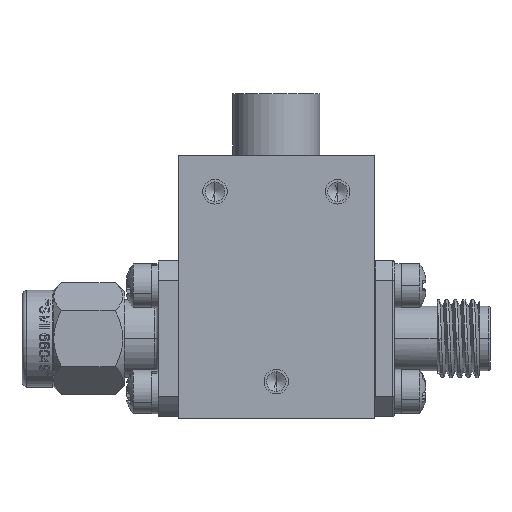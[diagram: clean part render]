
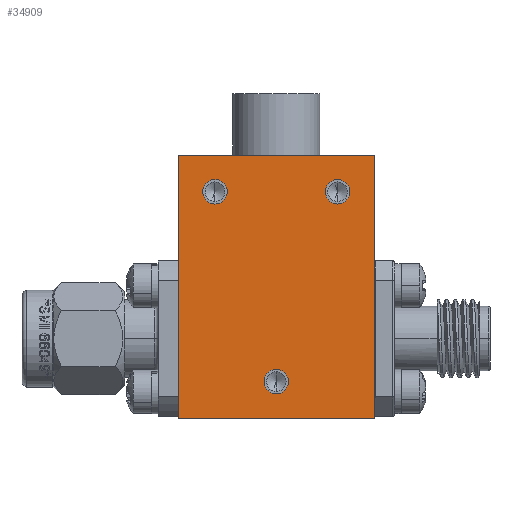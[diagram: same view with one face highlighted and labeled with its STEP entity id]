
A CAD part, front view. The second image highlights one B-rep face of the part: STEP entity #34909.
In plain terms, the highlighted planar face has unit normal (0, -1, 0).
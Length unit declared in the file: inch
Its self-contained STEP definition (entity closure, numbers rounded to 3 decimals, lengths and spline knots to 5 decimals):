
#187 = CARTESIAN_POINT ( 'NONE',  ( -0.35237, -0.21877, -0.73961 ) ) ;
#469 = CARTESIAN_POINT ( 'NONE',  ( -0.03737, -0.21877, -0.81824 ) ) ;
#702 = CARTESIAN_POINT ( 'NONE',  ( -0.15537, -0.21877, -0.09024 ) ) ;
#1106 = CARTESIAN_POINT ( 'NONE',  ( -0.66737, -0.21877, -0.81824 ) ) ;
#1234 = CIRCLE ( 'NONE', #20628, 0.03937 ) ;
#1672 = FACE_BOUND ( 'NONE', #22469, .T. ) ;
#1758 = DIRECTION ( 'NONE',  ( 0., 0., -1. ) ) ;
#2652 = DIRECTION ( 'NONE',  ( 0., 0., -1. ) ) ;
#4607 = ORIENTED_EDGE ( 'NONE', *, *, #25985, .F. ) ;
#4716 = VERTEX_POINT ( 'NONE', #19834 ) ;
#4989 = CARTESIAN_POINT ( 'NONE',  ( -0.54937, -0.21877, -0.09024 ) ) ;
#5359 = AXIS2_PLACEMENT_3D ( 'NONE', #4989, #35419, #1758 ) ;
#5694 = DIRECTION ( 'NONE',  ( 0., -1., 0. ) ) ;
#6892 = EDGE_CURVE ( 'NONE', #29649, #32487, #12876, .T. ) ;
#7384 = ORIENTED_EDGE ( 'NONE', *, *, #10046, .F. ) ;
#7609 = AXIS2_PLACEMENT_3D ( 'NONE', #702, #10830, #14444 ) ;
#7968 = ORIENTED_EDGE ( 'NONE', *, *, #31310, .F. ) ;
#8193 = VECTOR ( 'NONE', #9255, 39.37008 ) ;
#8658 = VERTEX_POINT ( 'NONE', #27869 ) ;
#8943 = LINE ( 'NONE', #21490, #24591 ) ;
#9245 = CIRCLE ( 'NONE', #21567, 0.03937 ) ;
#9255 = DIRECTION ( 'NONE',  ( 0., 0., -1. ) ) ;
#9614 = DIRECTION ( 'NONE',  ( 0., -1., 0. ) ) ;
#9995 = ORIENTED_EDGE ( 'NONE', *, *, #6892, .F. ) ;
#10046 = EDGE_CURVE ( 'NONE', #10099, #25624, #31337, .T. ) ;
#10099 = VERTEX_POINT ( 'NONE', #187 ) ;
#10212 = DIRECTION ( 'NONE',  ( -1., 0., 0. ) ) ;
#10830 = DIRECTION ( 'NONE',  ( 0., -1., 0. ) ) ;
#11111 = VECTOR ( 'NONE', #11360, 39.37008 ) ;
#11360 = DIRECTION ( 'NONE',  ( 0., 0., 1. ) ) ;
#12348 = DIRECTION ( 'NONE',  ( 1., 0., 0. ) ) ;
#12876 = LINE ( 'NONE', #18576, #8193 ) ;
#12882 = CARTESIAN_POINT ( 'NONE',  ( -0.66737, -0.21877, -0.81824 ) ) ;
#14310 = CARTESIAN_POINT ( 'NONE',  ( -0.54937, -0.21877, -0.05087 ) ) ;
#14444 = DIRECTION ( 'NONE',  ( 0., 0., -1. ) ) ;
#14602 = PLANE ( 'NONE',  #39827 ) ;
#14812 = FACE_BOUND ( 'NONE', #34720, .T. ) ;
#15699 = EDGE_CURVE ( 'NONE', #25624, #10099, #1234, .T. ) ;
#15748 = DIRECTION ( 'NONE',  ( 0., 0., -1. ) ) ;
#15961 = DIRECTION ( 'NONE',  ( 0., -1., 0. ) ) ;
#16998 = VERTEX_POINT ( 'NONE', #31011 ) ;
#17033 = ORIENTED_EDGE ( 'NONE', *, *, #18286, .F. ) ;
#17916 = EDGE_CURVE ( 'NONE', #26264, #29649, #8943, .T. ) ;
#18286 = EDGE_CURVE ( 'NONE', #32487, #22522, #18721, .T. ) ;
#18576 = CARTESIAN_POINT ( 'NONE',  ( -0.03737, -0.21877, 0.02776 ) ) ;
#18628 = DIRECTION ( 'NONE',  ( 0., -1., 0. ) ) ;
#18721 = LINE ( 'NONE', #1106, #35037 ) ;
#18848 = CARTESIAN_POINT ( 'NONE',  ( -0.15537, -0.21877, -0.09024 ) ) ;
#19531 = DIRECTION ( 'NONE',  ( 0., 0., -1. ) ) ;
#19579 = CIRCLE ( 'NONE', #5359, 0.03937 ) ;
#19655 = AXIS2_PLACEMENT_3D ( 'NONE', #37494, #18628, #24711 ) ;
#19834 = CARTESIAN_POINT ( 'NONE',  ( -0.54937, -0.21877, -0.12961 ) ) ;
#19851 = AXIS2_PLACEMENT_3D ( 'NONE', #18848, #5694, #2652 ) ;
#20089 = CARTESIAN_POINT ( 'NONE',  ( -0.66737, -0.21877, 0.02776 ) ) ;
#20534 = CIRCLE ( 'NONE', #7609, 0.03937 ) ;
#20628 = AXIS2_PLACEMENT_3D ( 'NONE', #34226, #15961, #15748 ) ;
#20705 = FACE_BOUND ( 'NONE', #33553, .T. ) ;
#21490 = CARTESIAN_POINT ( 'NONE',  ( -0.66737, -0.21877, 0.02776 ) ) ;
#21567 = AXIS2_PLACEMENT_3D ( 'NONE', #22587, #9614, #19531 ) ;
#22058 = ORIENTED_EDGE ( 'NONE', *, *, #26361, .F. ) ;
#22238 = EDGE_CURVE ( 'NONE', #22522, #26264, #23151, .T. ) ;
#22469 = EDGE_LOOP ( 'NONE', ( #22058, #4607 ) ) ;
#22522 = VERTEX_POINT ( 'NONE', #12882 ) ;
#22587 = CARTESIAN_POINT ( 'NONE',  ( -0.54937, -0.21877, -0.09024 ) ) ;
#23151 = LINE ( 'NONE', #20089, #11111 ) ;
#23357 = DIRECTION ( 'NONE',  ( 0., -1., 0. ) ) ;
#24591 = VECTOR ( 'NONE', #12348, 39.37008 ) ;
#24711 = DIRECTION ( 'NONE',  ( 0., 0., -1. ) ) ;
#25022 = ORIENTED_EDGE ( 'NONE', *, *, #17916, .F. ) ;
#25624 = VERTEX_POINT ( 'NONE', #26337 ) ;
#25962 = CARTESIAN_POINT ( 'NONE',  ( -0.03737, -0.21877, 0.02776 ) ) ;
#25985 = EDGE_CURVE ( 'NONE', #35732, #4716, #19579, .T. ) ;
#26264 = VERTEX_POINT ( 'NONE', #33765 ) ;
#26337 = CARTESIAN_POINT ( 'NONE',  ( -0.35237, -0.21877, -0.66087 ) ) ;
#26361 = EDGE_CURVE ( 'NONE', #4716, #35732, #9245, .T. ) ;
#27195 = FACE_OUTER_BOUND ( 'NONE', #34880, .T. ) ;
#27869 = CARTESIAN_POINT ( 'NONE',  ( -0.15537, -0.21877, -0.05087 ) ) ;
#28920 = CIRCLE ( 'NONE', #19851, 0.03937 ) ;
#29002 = ORIENTED_EDGE ( 'NONE', *, *, #15699, .F. ) ;
#29649 = VERTEX_POINT ( 'NONE', #25962 ) ;
#30351 = EDGE_CURVE ( 'NONE', #8658, #16998, #28920, .T. ) ;
#31011 = CARTESIAN_POINT ( 'NONE',  ( -0.15537, -0.21877, -0.12961 ) ) ;
#31310 = EDGE_CURVE ( 'NONE', #16998, #8658, #20534, .T. ) ;
#31337 = CIRCLE ( 'NONE', #19655, 0.03937 ) ;
#32487 = VERTEX_POINT ( 'NONE', #469 ) ;
#33108 = DIRECTION ( 'NONE',  ( 0., 0., -1. ) ) ;
#33553 = EDGE_LOOP ( 'NONE', ( #7968, #36535 ) ) ;
#33765 = CARTESIAN_POINT ( 'NONE',  ( -0.66737, -0.21877, 0.02776 ) ) ;
#34226 = CARTESIAN_POINT ( 'NONE',  ( -0.35237, -0.21877, -0.70024 ) ) ;
#34720 = EDGE_LOOP ( 'NONE', ( #7384, #29002 ) ) ;
#34880 = EDGE_LOOP ( 'NONE', ( #38851, #17033, #9995, #25022 ) ) ;
#34909 = ADVANCED_FACE ( 'NONE', ( #14812, #1672, #20705, #27195 ), #14602, .T. ) ;
#35037 = VECTOR ( 'NONE', #10212, 39.37008 ) ;
#35419 = DIRECTION ( 'NONE',  ( 0., -1., 0. ) ) ;
#35732 = VERTEX_POINT ( 'NONE', #14310 ) ;
#36535 = ORIENTED_EDGE ( 'NONE', *, *, #30351, .F. ) ;
#37494 = CARTESIAN_POINT ( 'NONE',  ( -0.35237, -0.21877, -0.70024 ) ) ;
#38851 = ORIENTED_EDGE ( 'NONE', *, *, #22238, .F. ) ;
#39576 = CARTESIAN_POINT ( 'NONE',  ( -0.66737, -0.21877, 0.02776 ) ) ;
#39827 = AXIS2_PLACEMENT_3D ( 'NONE', #39576, #23357, #33108 ) ;
